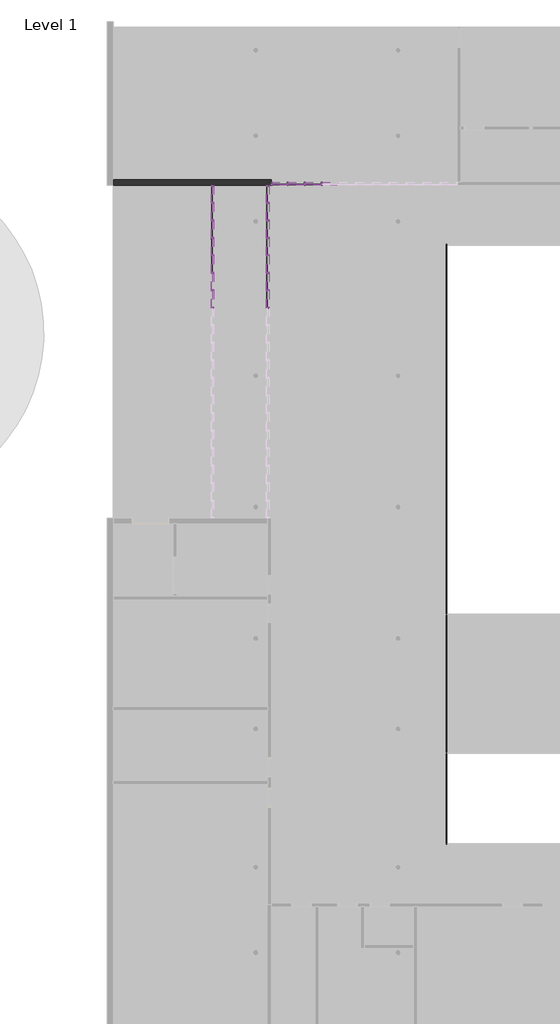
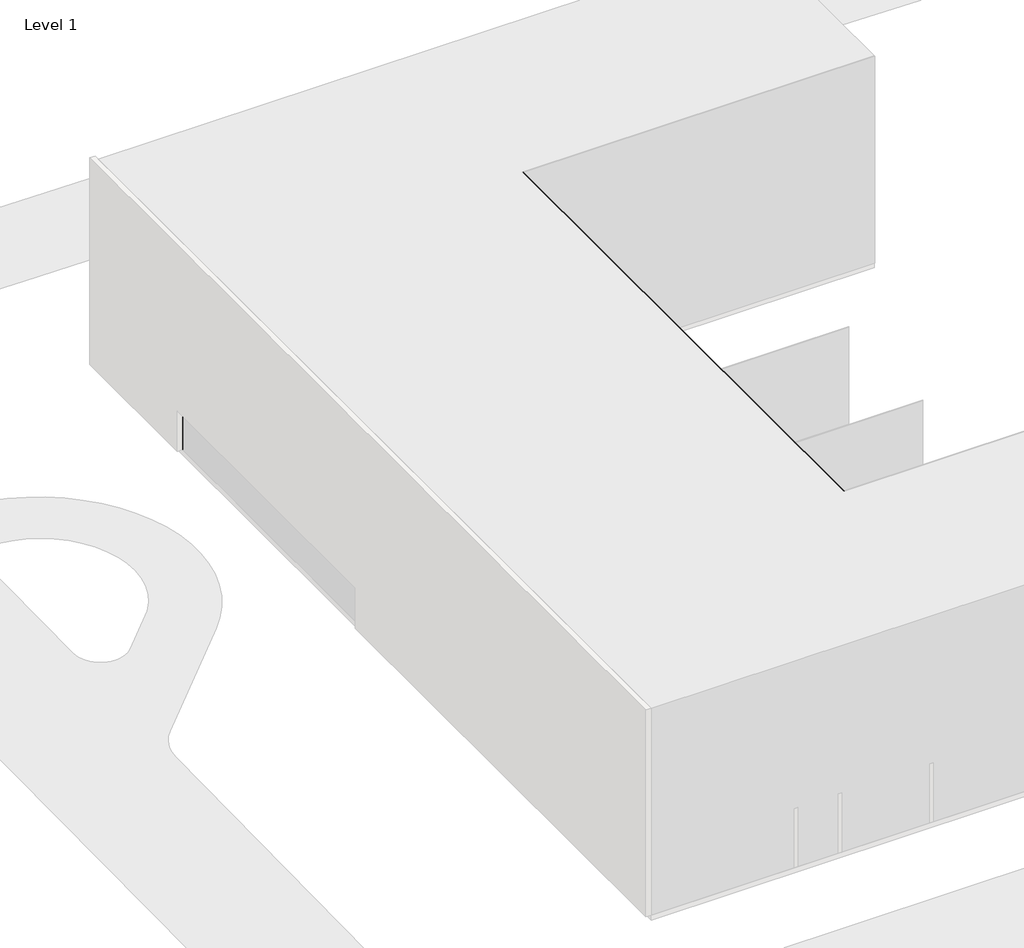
# One storey, part 3 of 5: 91 members, 27 plates, 3 doors, 1 wall.
"""IFC4 building model written with IfcOpenShell, lengths in millimetres."""

from ifc_helpers import new_model, si_unit, origin, place, context, project, spatial, faceted_brep, transform, mapped, element, save
from components import m_door_curtain_wall_double_storefront_m_door_curtain_wall_2970ffc3, rectangular_mullion_50mm_x_150mm_13593f2b, rectangular_mullion_50mm_x_150mm_0e57614d, rectangular_mullion_50mm_x_150mm_d8a63713, rectangular_mullion_50mm_x_150mm_a5e1a8f4, rectangular_mullion_50mm_x_150mm_caa46ae3, rectangular_mullion_50mm_x_150mm_eff96389, rectangular_mullion_50mm_x_150mm_2f4df0fd, rectangular_mullion_50mm_x_150mm_a28728bf, rectangular_mullion_50mm_x_150mm_22af440f, rectangular_mullion_50mm_x_150mm_0f59f38f, rectangular_mullion_50mm_x_150mm_3fa3ad65, rectangular_mullion_50mm_x_150mm_d427b131, rectangular_mullion_50mm_x_150mm_a376ce0f, rectangular_mullion_50mm_x_150mm_4471a7bc, rectangular_mullion_50mm_x_150mm_1cdaa0f1, system_panel_glazed_2efde036, system_panel_glazed_dff54dbd, system_panel_glazed_4aef0c34, system_panel_glazed_3f9df8c7, system_panel_glazed_45ebec01, system_panel_glazed_aa3f7126, system_panel_glazed_37b7c907, system_panel_glazed_7c3f78ea, system_panel_glazed_1f05e993

model = new_model("IFC4")

# Units and contexts
model_context = context("Model", 3, world=origin())
ifc_project = project(units=[si_unit("LENGTHUNIT", "METRE", prefix="MILLI")], contexts=[model_context])

# Site, building, storey
site = spatial("IfcSite", under=ifc_project)
building = spatial("IfcBuilding", under=site)
storey = spatial("IfcBuildingStorey", under=building, Name="Level 1", Elevation=0.0)

# Doors
placement = place(None, origin())
m_door_curtain_wall_double_storefront_m_door_curtain_wall_shape = m_door_curtain_wall_double_storefront_m_door_curtain_wall_2970ffc3(model_context)
element("IfcDoor", 1, ObjectType="M_Door-Curtain-Wall-Double-Storefront : M_Door-Curtain-Wall-Double-Storefront", at=placement, inside=storey, context=model_context, shape_type="MappedRepresentation", body=[
    mapped(m_door_curtain_wall_double_storefront_m_door_curtain_wall_shape, transform((-1903.8386635, 16994.8957697, 0.0), x_axis=(0.0, -1.0, 0.0), y_axis=(1.0, 0.0, 0.0), z_axis=(0.0, 0.0, 1.0))),
])
element("IfcDoor", 2, ObjectType="M_Door-Curtain-Wall-Double-Storefront : M_Door-Curtain-Wall-Double-Storefront", at=placement, inside=storey, context=model_context, shape_type="MappedRepresentation", body=[
    mapped(m_door_curtain_wall_double_storefront_m_door_curtain_wall_shape, transform((-1903.8386635, 18836.7905065, 0.0), x_axis=(0.0, -1.0, 0.0), y_axis=(1.0, 0.0, 0.0), z_axis=(0.0, 0.0, 1.0))),
])
element("IfcDoor", 3, ObjectType="M_Door-Curtain-Wall-Double-Storefront : M_Door-Curtain-Wall-Double-Storefront", at=placement, inside=storey, context=model_context, shape_type="MappedRepresentation", body=[
    mapped(m_door_curtain_wall_double_storefront_m_door_curtain_wall_shape, transform((-4803.8386635, 18836.7905065, 0.0), x_axis=(0.0, -1.0, 0.0), y_axis=(1.0, 0.0, 0.0), z_axis=(0.0, 0.0, 1.0))),
])

# Members
rectangular_mullion_50mm_x_150mm_shape = rectangular_mullion_50mm_x_150mm_13593f2b(model_context)
element("IfcMember", 4, ObjectType="Rectangular Mullion : 50mm x 150mm", at=placement, inside=storey, context=model_context, shape_type="MappedRepresentation", body=[
    mapped(rectangular_mullion_50mm_x_150mm_shape, transform((-865.0805055, 22595.5799804, 0.0), x_axis=(0.0, 0.0, -1.0), y_axis=(0.0, 1.0, 0.0), z_axis=(1.0, 0.0, 0.0))),
])
element("IfcMember", 5, ObjectType="Rectangular Mullion : 50mm x 150mm", at=placement, inside=storey, context=model_context, shape_type="MappedRepresentation", body=[
    mapped(rectangular_mullion_50mm_x_150mm_shape, transform((-1678.8386635, 22595.5799804, 3550.0), x_axis=(0.0, 0.0, 1.0), y_axis=(0.0, 1.0, 0.0), z_axis=(-1.0, 0.0, 0.0))),
])
rectangular_mullion_50mm_x_150mm_2_shape = rectangular_mullion_50mm_x_150mm_0e57614d(model_context)
element("IfcMember", 6, ObjectType="Rectangular Mullion : 50mm x 150mm", at=placement, inside=storey, context=model_context, shape_type="MappedRepresentation", body=[
    mapped(rectangular_mullion_50mm_x_150mm_2_shape, transform((962.43581, 22595.5799804, 3550.0), x_axis=(0.0, 0.0, 1.0), y_axis=(0.0, 1.0, 0.0), z_axis=(-1.0, 0.0, 0.0))),
])
element("IfcMember", 7, ObjectType="Rectangular Mullion : 50mm x 150mm", at=placement, inside=storey, context=model_context, shape_type="MappedRepresentation", body=[
    mapped(rectangular_mullion_50mm_x_150mm_2_shape, transform((73.6776523, 22595.5799804, 3550.0), x_axis=(0.0, 0.0, 1.0), y_axis=(0.0, 1.0, 0.0), z_axis=(-1.0, 0.0, 0.0))),
])
element("IfcMember", 8, ObjectType="Rectangular Mullion : 50mm x 150mm", at=placement, inside=storey, context=model_context, shape_type="MappedRepresentation", body=[
    mapped(rectangular_mullion_50mm_x_150mm_2_shape, transform((-815.0805055, 22595.5799804, 3550.0), x_axis=(0.0, 0.0, 1.0), y_axis=(0.0, 1.0, 0.0), z_axis=(-1.0, 0.0, 0.0))),
])
element("IfcMember", 9, ObjectType="Rectangular Mullion : 50mm x 150mm", at=placement, inside=storey, context=model_context, shape_type="MappedRepresentation", body=[
    mapped(rectangular_mullion_50mm_x_150mm_2_shape, transform((912.43581, 22595.5799804, 0.0), x_axis=(0.0, 0.0, -1.0), y_axis=(0.0, 1.0, 0.0), z_axis=(1.0, 0.0, 0.0))),
])
element("IfcMember", 10, ObjectType="Rectangular Mullion : 50mm x 150mm", at=placement, inside=storey, context=model_context, shape_type="MappedRepresentation", body=[
    mapped(rectangular_mullion_50mm_x_150mm_2_shape, transform((23.6776523, 22595.5799804, 0.0), x_axis=(0.0, 0.0, -1.0), y_axis=(0.0, 1.0, 0.0), z_axis=(1.0, 0.0, 0.0))),
])
rectangular_mullion_50mm_x_150mm_3_shape = rectangular_mullion_50mm_x_150mm_d8a63713(model_context)
element("IfcMember", 11, ObjectType="Rectangular Mullion : 50mm x 150mm", at=placement, inside=storey, context=model_context, shape_type="MappedRepresentation", body=[
    mapped(rectangular_mullion_50mm_x_150mm_3_shape, transform((937.43581, 22595.5799804, 0.0), x_axis=(-1.0, 0.0, 0.0), y_axis=(0.0, 1.0, 0.0), z_axis=(0.0, 0.0, -1.0))),
])
element("IfcMember", 12, ObjectType="Rectangular Mullion : 50mm x 150mm", at=placement, inside=storey, context=model_context, shape_type="MappedRepresentation", body=[
    mapped(rectangular_mullion_50mm_x_150mm_3_shape, transform((48.6776523, 22595.5799804, 0.0), x_axis=(-1.0, 0.0, 0.0), y_axis=(0.0, 1.0, 0.0), z_axis=(0.0, 0.0, -1.0))),
])
element("IfcMember", 13, ObjectType="Rectangular Mullion : 50mm x 150mm", at=placement, inside=storey, context=model_context, shape_type="MappedRepresentation", body=[
    mapped(rectangular_mullion_50mm_x_150mm_3_shape, transform((-840.0805055, 22595.5799804, 0.0), x_axis=(-1.0, 0.0, 0.0), y_axis=(0.0, 1.0, 0.0), z_axis=(0.0, 0.0, -1.0))),
])
rectangular_mullion_50mm_x_150mm_4_shape = rectangular_mullion_50mm_x_150mm_a5e1a8f4(model_context)
element("IfcMember", 14, ObjectType="Rectangular Mullion : 50mm x 150mm", at=placement, inside=storey, context=model_context, shape_type="MappedRepresentation", body=[
    mapped(rectangular_mullion_50mm_x_150mm_4_shape, transform((-1678.8386635, 22595.5799804, 2235.0), x_axis=(0.0, 0.0, 1.0), y_axis=(0.0, 1.0, 0.0), z_axis=(-1.0, 0.0, 0.0))),
])
element("IfcMember", 15, ObjectType="Rectangular Mullion : 50mm x 150mm", at=placement, inside=storey, context=model_context, shape_type="MappedRepresentation", body=[
    mapped(rectangular_mullion_50mm_x_150mm_4_shape, transform((-1678.8386635, 22595.5799804, 2135.0), x_axis=(0.0, 0.0, 1.0), y_axis=(0.0, 1.0, 0.0), z_axis=(-1.0, 0.0, 0.0))),
])
rectangular_mullion_50mm_x_150mm_5_shape = rectangular_mullion_50mm_x_150mm_caa46ae3(model_context)
element("IfcMember", 16, ObjectType="Rectangular Mullion : 50mm x 150mm", at=placement, inside=storey, context=model_context, shape_type="MappedRepresentation", body=[
    mapped(rectangular_mullion_50mm_x_150mm_5_shape, transform((962.43581, 22595.5799804, 2235.0), x_axis=(0.0, 0.0, 1.0), y_axis=(0.0, 1.0, 0.0), z_axis=(-1.0, 0.0, 0.0))),
])
element("IfcMember", 17, ObjectType="Rectangular Mullion : 50mm x 150mm", at=placement, inside=storey, context=model_context, shape_type="MappedRepresentation", body=[
    mapped(rectangular_mullion_50mm_x_150mm_5_shape, transform((73.6776523, 22595.5799804, 2235.0), x_axis=(0.0, 0.0, 1.0), y_axis=(0.0, 1.0, 0.0), z_axis=(-1.0, 0.0, 0.0))),
])
element("IfcMember", 18, ObjectType="Rectangular Mullion : 50mm x 150mm", at=placement, inside=storey, context=model_context, shape_type="MappedRepresentation", body=[
    mapped(rectangular_mullion_50mm_x_150mm_5_shape, transform((-815.0805055, 22595.5799804, 2235.0), x_axis=(0.0, 0.0, 1.0), y_axis=(0.0, 1.0, 0.0), z_axis=(-1.0, 0.0, 0.0))),
])
element("IfcMember", 19, ObjectType="Rectangular Mullion : 50mm x 150mm", at=placement, inside=storey, context=model_context, shape_type="MappedRepresentation", body=[
    mapped(rectangular_mullion_50mm_x_150mm_5_shape, transform((962.43581, 22595.5799804, 2135.0), x_axis=(0.0, 0.0, 1.0), y_axis=(0.0, 1.0, 0.0), z_axis=(-1.0, 0.0, 0.0))),
])
element("IfcMember", 20, ObjectType="Rectangular Mullion : 50mm x 150mm", at=placement, inside=storey, context=model_context, shape_type="MappedRepresentation", body=[
    mapped(rectangular_mullion_50mm_x_150mm_5_shape, transform((73.6776523, 22595.5799804, 2135.0), x_axis=(0.0, 0.0, 1.0), y_axis=(0.0, 1.0, 0.0), z_axis=(-1.0, 0.0, 0.0))),
])
element("IfcMember", 21, ObjectType="Rectangular Mullion : 50mm x 150mm", at=placement, inside=storey, context=model_context, shape_type="MappedRepresentation", body=[
    mapped(rectangular_mullion_50mm_x_150mm_5_shape, transform((-815.0805055, 22595.5799804, 2135.0), x_axis=(0.0, 0.0, 1.0), y_axis=(0.0, 1.0, 0.0), z_axis=(-1.0, 0.0, 0.0))),
])
rectangular_mullion_50mm_x_150mm_6_shape = rectangular_mullion_50mm_x_150mm_eff96389(model_context)
element("IfcMember", 22, ObjectType="Rectangular Mullion : 50mm x 150mm", at=placement, inside=storey, context=model_context, shape_type="MappedRepresentation", body=[
    mapped(rectangular_mullion_50mm_x_150mm_6_shape, transform((937.43581, 22595.5799804, 2235.0), x_axis=(-1.0, 0.0, 0.0), y_axis=(0.0, 1.0, 0.0), z_axis=(0.0, 0.0, -1.0))),
])
element("IfcMember", 23, ObjectType="Rectangular Mullion : 50mm x 150mm", at=placement, inside=storey, context=model_context, shape_type="MappedRepresentation", body=[
    mapped(rectangular_mullion_50mm_x_150mm_6_shape, transform((48.6776523, 22595.5799804, 2235.0), x_axis=(-1.0, 0.0, 0.0), y_axis=(0.0, 1.0, 0.0), z_axis=(0.0, 0.0, -1.0))),
])
element("IfcMember", 24, ObjectType="Rectangular Mullion : 50mm x 150mm", at=placement, inside=storey, context=model_context, shape_type="MappedRepresentation", body=[
    mapped(rectangular_mullion_50mm_x_150mm_6_shape, transform((-840.0805055, 22595.5799804, 2235.0), x_axis=(-1.0, 0.0, 0.0), y_axis=(0.0, 1.0, 0.0), z_axis=(0.0, 0.0, -1.0))),
])
rectangular_mullion_50mm_x_150mm_7_shape = rectangular_mullion_50mm_x_150mm_2f4df0fd(model_context)
element("IfcMember", 25, ObjectType="Rectangular Mullion : 50mm x 150mm", at=placement, inside=storey, context=model_context, shape_type="MappedRepresentation", body=[
    mapped(rectangular_mullion_50mm_x_150mm_7_shape, transform((-1728.8386635, 22595.5799804, 2235.0), x_axis=(-1.0, 0.0, 0.0), y_axis=(0.0, 1.0, 0.0), z_axis=(0.0, 0.0, -1.0))),
])
rectangular_mullion_50mm_x_150mm_8_shape = rectangular_mullion_50mm_x_150mm_a28728bf(model_context)
element("IfcMember", 26, ObjectType="Rectangular Mullion : 50mm x 150mm", at=placement, inside=storey, context=model_context, shape_type="MappedRepresentation", body=[
    mapped(rectangular_mullion_50mm_x_150mm_8_shape, transform((937.43581, 22595.5799804, 2135.0), x_axis=(-1.0, 0.0, 0.0), y_axis=(0.0, 1.0, 0.0), z_axis=(0.0, 0.0, -1.0))),
])
element("IfcMember", 27, ObjectType="Rectangular Mullion : 50mm x 150mm", at=placement, inside=storey, context=model_context, shape_type="MappedRepresentation", body=[
    mapped(rectangular_mullion_50mm_x_150mm_8_shape, transform((48.6776523, 22595.5799804, 2135.0), x_axis=(-1.0, 0.0, 0.0), y_axis=(0.0, 1.0, 0.0), z_axis=(0.0, 0.0, -1.0))),
])
element("IfcMember", 28, ObjectType="Rectangular Mullion : 50mm x 150mm", at=placement, inside=storey, context=model_context, shape_type="MappedRepresentation", body=[
    mapped(rectangular_mullion_50mm_x_150mm_8_shape, transform((-840.0805055, 22595.5799804, 2135.0), x_axis=(-1.0, 0.0, 0.0), y_axis=(0.0, 1.0, 0.0), z_axis=(0.0, 0.0, -1.0))),
])
rectangular_mullion_50mm_x_150mm_9_shape = rectangular_mullion_50mm_x_150mm_22af440f(model_context)
element("IfcMember", 29, ObjectType="Rectangular Mullion : 50mm x 150mm", at=placement, inside=storey, context=model_context, shape_type="MappedRepresentation", body=[
    mapped(rectangular_mullion_50mm_x_150mm_9_shape, transform((-1728.8386635, 22595.5799804, 0.0), x_axis=(-1.0, 0.0, 0.0), y_axis=(0.0, 1.0, 0.0), z_axis=(0.0, 0.0, -1.0))),
])
rectangular_mullion_50mm_x_150mm_10_shape = rectangular_mullion_50mm_x_150mm_0f59f38f(model_context)
element("IfcMember", 30, ObjectType="Rectangular Mullion : 50mm x 150mm", at=placement, inside=storey, context=model_context, shape_type="MappedRepresentation", body=[
    mapped(rectangular_mullion_50mm_x_150mm_10_shape, transform((-1728.8386635, 22595.5799804, 2135.0), x_axis=(-1.0, 0.0, 0.0), y_axis=(0.0, 1.0, 0.0), z_axis=(0.0, 0.0, -1.0))),
])
rectangular_mullion_50mm_x_150mm_11_shape = rectangular_mullion_50mm_x_150mm_3fa3ad65(model_context)
element("IfcMember", 31, ObjectType="Rectangular Mullion : 50mm x 150mm", at=placement, inside=storey, context=model_context, shape_type="MappedRepresentation", body=[
    mapped(rectangular_mullion_50mm_x_150mm_11_shape, transform((-1903.8386635, 21624.6326117, 3550.0), x_axis=(0.0, 0.0, 1.0), y_axis=(-1.0, 0.0, 0.0), z_axis=(0.0, -1.0, 0.0))),
])
element("IfcMember", 32, ObjectType="Rectangular Mullion : 50mm x 150mm", at=placement, inside=storey, context=model_context, shape_type="MappedRepresentation", body=[
    mapped(rectangular_mullion_50mm_x_150mm_11_shape, transform((-4803.8386635, 21624.6326117, 3550.0), x_axis=(0.0, 0.0, 1.0), y_axis=(-1.0, 0.0, 0.0), z_axis=(0.0, -1.0, 0.0))),
])
rectangular_mullion_50mm_x_150mm_12_shape = rectangular_mullion_50mm_x_150mm_d427b131(model_context)
element("IfcMember", 33, ObjectType="Rectangular Mullion : 50mm x 150mm", at=placement, inside=storey, context=model_context, shape_type="MappedRepresentation", body=[
    mapped(rectangular_mullion_50mm_x_150mm_12_shape, transform((-1903.8386635, 16098.9484014, 3550.0), x_axis=(0.0, 0.0, 1.0), y_axis=(-1.0, 0.0, 0.0), z_axis=(0.0, -1.0, 0.0))),
])
element("IfcMember", 34, ObjectType="Rectangular Mullion : 50mm x 150mm", at=placement, inside=storey, context=model_context, shape_type="MappedRepresentation", body=[
    mapped(rectangular_mullion_50mm_x_150mm_12_shape, transform((-1903.8386635, 17019.8957697, 3550.0), x_axis=(0.0, 0.0, 1.0), y_axis=(-1.0, 0.0, 0.0), z_axis=(0.0, -1.0, 0.0))),
])
element("IfcMember", 35, ObjectType="Rectangular Mullion : 50mm x 150mm", at=placement, inside=storey, context=model_context, shape_type="MappedRepresentation", body=[
    mapped(rectangular_mullion_50mm_x_150mm_12_shape, transform((-1903.8386635, 17940.8431381, 3550.0), x_axis=(0.0, 0.0, 1.0), y_axis=(-1.0, 0.0, 0.0), z_axis=(0.0, -1.0, 0.0))),
])
element("IfcMember", 36, ObjectType="Rectangular Mullion : 50mm x 150mm", at=placement, inside=storey, context=model_context, shape_type="MappedRepresentation", body=[
    mapped(rectangular_mullion_50mm_x_150mm_12_shape, transform((-1903.8386635, 18861.7905065, 3550.0), x_axis=(0.0, 0.0, 1.0), y_axis=(-1.0, 0.0, 0.0), z_axis=(0.0, -1.0, 0.0))),
])
element("IfcMember", 37, ObjectType="Rectangular Mullion : 50mm x 150mm", at=placement, inside=storey, context=model_context, shape_type="MappedRepresentation", body=[
    mapped(rectangular_mullion_50mm_x_150mm_12_shape, transform((-1903.8386635, 19782.7378749, 3550.0), x_axis=(0.0, 0.0, 1.0), y_axis=(-1.0, 0.0, 0.0), z_axis=(0.0, -1.0, 0.0))),
])
element("IfcMember", 38, ObjectType="Rectangular Mullion : 50mm x 150mm", at=placement, inside=storey, context=model_context, shape_type="MappedRepresentation", body=[
    mapped(rectangular_mullion_50mm_x_150mm_12_shape, transform((-1903.8386635, 20703.6852433, 3550.0), x_axis=(0.0, 0.0, 1.0), y_axis=(-1.0, 0.0, 0.0), z_axis=(0.0, -1.0, 0.0))),
])
element("IfcMember", 39, ObjectType="Rectangular Mullion : 50mm x 150mm", at=placement, inside=storey, context=model_context, shape_type="MappedRepresentation", body=[
    mapped(rectangular_mullion_50mm_x_150mm_12_shape, transform((-4803.8386635, 16098.9484014, 3550.0), x_axis=(0.0, 0.0, 1.0), y_axis=(-1.0, 0.0, 0.0), z_axis=(0.0, -1.0, 0.0))),
])
element("IfcMember", 40, ObjectType="Rectangular Mullion : 50mm x 150mm", at=placement, inside=storey, context=model_context, shape_type="MappedRepresentation", body=[
    mapped(rectangular_mullion_50mm_x_150mm_12_shape, transform((-4803.8386635, 17019.8957697, 3550.0), x_axis=(0.0, 0.0, 1.0), y_axis=(-1.0, 0.0, 0.0), z_axis=(0.0, -1.0, 0.0))),
])
element("IfcMember", 41, ObjectType="Rectangular Mullion : 50mm x 150mm", at=placement, inside=storey, context=model_context, shape_type="MappedRepresentation", body=[
    mapped(rectangular_mullion_50mm_x_150mm_12_shape, transform((-4803.8386635, 17940.8431381, 3550.0), x_axis=(0.0, 0.0, 1.0), y_axis=(-1.0, 0.0, 0.0), z_axis=(0.0, -1.0, 0.0))),
])
element("IfcMember", 42, ObjectType="Rectangular Mullion : 50mm x 150mm", at=placement, inside=storey, context=model_context, shape_type="MappedRepresentation", body=[
    mapped(rectangular_mullion_50mm_x_150mm_12_shape, transform((-4803.8386635, 18861.7905065, 3550.0), x_axis=(0.0, 0.0, 1.0), y_axis=(-1.0, 0.0, 0.0), z_axis=(0.0, -1.0, 0.0))),
])
element("IfcMember", 43, ObjectType="Rectangular Mullion : 50mm x 150mm", at=placement, inside=storey, context=model_context, shape_type="MappedRepresentation", body=[
    mapped(rectangular_mullion_50mm_x_150mm_12_shape, transform((-4803.8386635, 19782.7378749, 3550.0), x_axis=(0.0, 0.0, 1.0), y_axis=(-1.0, 0.0, 0.0), z_axis=(0.0, -1.0, 0.0))),
])
element("IfcMember", 44, ObjectType="Rectangular Mullion : 50mm x 150mm", at=placement, inside=storey, context=model_context, shape_type="MappedRepresentation", body=[
    mapped(rectangular_mullion_50mm_x_150mm_12_shape, transform((-4803.8386635, 20703.6852433, 3550.0), x_axis=(0.0, 0.0, 1.0), y_axis=(-1.0, 0.0, 0.0), z_axis=(0.0, -1.0, 0.0))),
])
element("IfcMember", 45, ObjectType="Rectangular Mullion : 50mm x 150mm", at=placement, inside=storey, context=model_context, shape_type="MappedRepresentation", body=[
    mapped(rectangular_mullion_50mm_x_150mm_12_shape, transform((-1903.8386635, 21574.6326117, 0.0), x_axis=(0.0, 0.0, -1.0), y_axis=(-1.0, 0.0, 0.0), z_axis=(0.0, 1.0, 0.0))),
])
element("IfcMember", 46, ObjectType="Rectangular Mullion : 50mm x 150mm", at=placement, inside=storey, context=model_context, shape_type="MappedRepresentation", body=[
    mapped(rectangular_mullion_50mm_x_150mm_12_shape, transform((-1903.8386635, 20653.6852433, 0.0), x_axis=(0.0, 0.0, -1.0), y_axis=(-1.0, 0.0, 0.0), z_axis=(0.0, 1.0, 0.0))),
])
element("IfcMember", 47, ObjectType="Rectangular Mullion : 50mm x 150mm", at=placement, inside=storey, context=model_context, shape_type="MappedRepresentation", body=[
    mapped(rectangular_mullion_50mm_x_150mm_12_shape, transform((-1903.8386635, 16048.9484014, 0.0), x_axis=(0.0, 0.0, -1.0), y_axis=(-1.0, 0.0, 0.0), z_axis=(0.0, 1.0, 0.0))),
])
element("IfcMember", 48, ObjectType="Rectangular Mullion : 50mm x 150mm", at=placement, inside=storey, context=model_context, shape_type="MappedRepresentation", body=[
    mapped(rectangular_mullion_50mm_x_150mm_12_shape, transform((-4803.8386635, 21574.6326117, 0.0), x_axis=(0.0, 0.0, -1.0), y_axis=(-1.0, 0.0, 0.0), z_axis=(0.0, 1.0, 0.0))),
])
element("IfcMember", 49, ObjectType="Rectangular Mullion : 50mm x 150mm", at=placement, inside=storey, context=model_context, shape_type="MappedRepresentation", body=[
    mapped(rectangular_mullion_50mm_x_150mm_12_shape, transform((-4803.8386635, 20653.6852433, 0.0), x_axis=(0.0, 0.0, -1.0), y_axis=(-1.0, 0.0, 0.0), z_axis=(0.0, 1.0, 0.0))),
])
element("IfcMember", 50, ObjectType="Rectangular Mullion : 50mm x 150mm", at=placement, inside=storey, context=model_context, shape_type="MappedRepresentation", body=[
    mapped(rectangular_mullion_50mm_x_150mm_12_shape, transform((-4803.8386635, 16048.9484014, 0.0), x_axis=(0.0, 0.0, -1.0), y_axis=(-1.0, 0.0, 0.0), z_axis=(0.0, 1.0, 0.0))),
])
element("IfcMember", 51, ObjectType="Rectangular Mullion : 50mm x 150mm", at=placement, inside=storey, context=model_context, shape_type="MappedRepresentation", body=[
    mapped(rectangular_mullion_50mm_x_150mm_11_shape, transform((-1903.8386635, 22470.5799804, 0.0), x_axis=(0.0, 0.0, -1.0), y_axis=(-1.0, 0.0, 0.0), z_axis=(0.0, 1.0, 0.0))),
])
element("IfcMember", 52, ObjectType="Rectangular Mullion : 50mm x 150mm", at=placement, inside=storey, context=model_context, shape_type="MappedRepresentation", body=[
    mapped(rectangular_mullion_50mm_x_150mm_11_shape, transform((-4803.8386635, 22470.5799804, 0.0), x_axis=(0.0, 0.0, -1.0), y_axis=(-1.0, 0.0, 0.0), z_axis=(0.0, 1.0, 0.0))),
])
element("IfcMember", 53, ObjectType="Rectangular Mullion : 50mm x 150mm", at=placement, inside=storey, context=model_context, shape_type="MappedRepresentation", body=[
    mapped(rectangular_mullion_50mm_x_150mm_3_shape, transform((-1903.8386635, 16073.9484014, 0.0), x_axis=(0.0, -1.0, 0.0), y_axis=(-1.0, 0.0, 0.0), z_axis=(0.0, 0.0, -1.0))),
])
element("IfcMember", 54, ObjectType="Rectangular Mullion : 50mm x 150mm", at=placement, inside=storey, context=model_context, shape_type="MappedRepresentation", body=[
    mapped(rectangular_mullion_50mm_x_150mm_3_shape, transform((-1903.8386635, 19757.7378749, 0.0), x_axis=(0.0, -1.0, 0.0), y_axis=(-1.0, 0.0, 0.0), z_axis=(0.0, 0.0, -1.0))),
])
element("IfcMember", 55, ObjectType="Rectangular Mullion : 50mm x 150mm", at=placement, inside=storey, context=model_context, shape_type="MappedRepresentation", body=[
    mapped(rectangular_mullion_50mm_x_150mm_3_shape, transform((-1903.8386635, 20678.6852433, 0.0), x_axis=(0.0, -1.0, 0.0), y_axis=(-1.0, 0.0, 0.0), z_axis=(0.0, 0.0, -1.0))),
])
element("IfcMember", 56, ObjectType="Rectangular Mullion : 50mm x 150mm", at=placement, inside=storey, context=model_context, shape_type="MappedRepresentation", body=[
    mapped(rectangular_mullion_50mm_x_150mm_3_shape, transform((-1903.8386635, 21599.6326117, 0.0), x_axis=(0.0, -1.0, 0.0), y_axis=(-1.0, 0.0, 0.0), z_axis=(0.0, 0.0, -1.0))),
])
element("IfcMember", 57, ObjectType="Rectangular Mullion : 50mm x 150mm", at=placement, inside=storey, context=model_context, shape_type="MappedRepresentation", body=[
    mapped(rectangular_mullion_50mm_x_150mm_3_shape, transform((-4803.8386635, 16073.9484014, 0.0), x_axis=(0.0, -1.0, 0.0), y_axis=(-1.0, 0.0, 0.0), z_axis=(0.0, 0.0, -1.0))),
])
element("IfcMember", 58, ObjectType="Rectangular Mullion : 50mm x 150mm", at=placement, inside=storey, context=model_context, shape_type="MappedRepresentation", body=[
    mapped(rectangular_mullion_50mm_x_150mm_3_shape, transform((-4803.8386635, 19757.7378749, 0.0), x_axis=(0.0, -1.0, 0.0), y_axis=(-1.0, 0.0, 0.0), z_axis=(0.0, 0.0, -1.0))),
])
element("IfcMember", 59, ObjectType="Rectangular Mullion : 50mm x 150mm", at=placement, inside=storey, context=model_context, shape_type="MappedRepresentation", body=[
    mapped(rectangular_mullion_50mm_x_150mm_3_shape, transform((-4803.8386635, 20678.6852433, 0.0), x_axis=(0.0, -1.0, 0.0), y_axis=(-1.0, 0.0, 0.0), z_axis=(0.0, 0.0, -1.0))),
])
element("IfcMember", 60, ObjectType="Rectangular Mullion : 50mm x 150mm", at=placement, inside=storey, context=model_context, shape_type="MappedRepresentation", body=[
    mapped(rectangular_mullion_50mm_x_150mm_3_shape, transform((-4803.8386635, 21599.6326117, 0.0), x_axis=(0.0, -1.0, 0.0), y_axis=(-1.0, 0.0, 0.0), z_axis=(0.0, 0.0, -1.0))),
])
element("IfcMember", 61, ObjectType="Rectangular Mullion : 50mm x 150mm", at=placement, inside=storey, context=model_context, shape_type="MappedRepresentation", body=[
    mapped(rectangular_mullion_50mm_x_150mm_8_shape, transform((-1903.8386635, 16073.9484014, 2135.0), x_axis=(0.0, -1.0, 0.0), y_axis=(-1.0, 0.0, 0.0), z_axis=(0.0, 0.0, -1.0))),
])
element("IfcMember", 62, ObjectType="Rectangular Mullion : 50mm x 150mm", at=placement, inside=storey, context=model_context, shape_type="MappedRepresentation", body=[
    mapped(rectangular_mullion_50mm_x_150mm_8_shape, transform((-1903.8386635, 17915.8431381, 2135.0), x_axis=(0.0, -1.0, 0.0), y_axis=(-1.0, 0.0, 0.0), z_axis=(0.0, 0.0, -1.0))),
])
element("IfcMember", 63, ObjectType="Rectangular Mullion : 50mm x 150mm", at=placement, inside=storey, context=model_context, shape_type="MappedRepresentation", body=[
    mapped(rectangular_mullion_50mm_x_150mm_8_shape, transform((-1903.8386635, 19757.7378749, 2135.0), x_axis=(0.0, -1.0, 0.0), y_axis=(-1.0, 0.0, 0.0), z_axis=(0.0, 0.0, -1.0))),
])
element("IfcMember", 64, ObjectType="Rectangular Mullion : 50mm x 150mm", at=placement, inside=storey, context=model_context, shape_type="MappedRepresentation", body=[
    mapped(rectangular_mullion_50mm_x_150mm_8_shape, transform((-1903.8386635, 20678.6852433, 2135.0), x_axis=(0.0, -1.0, 0.0), y_axis=(-1.0, 0.0, 0.0), z_axis=(0.0, 0.0, -1.0))),
])
element("IfcMember", 65, ObjectType="Rectangular Mullion : 50mm x 150mm", at=placement, inside=storey, context=model_context, shape_type="MappedRepresentation", body=[
    mapped(rectangular_mullion_50mm_x_150mm_8_shape, transform((-1903.8386635, 21599.6326117, 2135.0), x_axis=(0.0, -1.0, 0.0), y_axis=(-1.0, 0.0, 0.0), z_axis=(0.0, 0.0, -1.0))),
])
element("IfcMember", 66, ObjectType="Rectangular Mullion : 50mm x 150mm", at=placement, inside=storey, context=model_context, shape_type="MappedRepresentation", body=[
    mapped(rectangular_mullion_50mm_x_150mm_8_shape, transform((-4803.8386635, 16073.9484014, 2135.0), x_axis=(0.0, -1.0, 0.0), y_axis=(-1.0, 0.0, 0.0), z_axis=(0.0, 0.0, -1.0))),
])
element("IfcMember", 67, ObjectType="Rectangular Mullion : 50mm x 150mm", at=placement, inside=storey, context=model_context, shape_type="MappedRepresentation", body=[
    mapped(rectangular_mullion_50mm_x_150mm_8_shape, transform((-4803.8386635, 17915.8431381, 2135.0), x_axis=(0.0, -1.0, 0.0), y_axis=(-1.0, 0.0, 0.0), z_axis=(0.0, 0.0, -1.0))),
])
element("IfcMember", 68, ObjectType="Rectangular Mullion : 50mm x 150mm", at=placement, inside=storey, context=model_context, shape_type="MappedRepresentation", body=[
    mapped(rectangular_mullion_50mm_x_150mm_8_shape, transform((-4803.8386635, 19757.7378749, 2135.0), x_axis=(0.0, -1.0, 0.0), y_axis=(-1.0, 0.0, 0.0), z_axis=(0.0, 0.0, -1.0))),
])
element("IfcMember", 69, ObjectType="Rectangular Mullion : 50mm x 150mm", at=placement, inside=storey, context=model_context, shape_type="MappedRepresentation", body=[
    mapped(rectangular_mullion_50mm_x_150mm_8_shape, transform((-4803.8386635, 20678.6852433, 2135.0), x_axis=(0.0, -1.0, 0.0), y_axis=(-1.0, 0.0, 0.0), z_axis=(0.0, 0.0, -1.0))),
])
element("IfcMember", 70, ObjectType="Rectangular Mullion : 50mm x 150mm", at=placement, inside=storey, context=model_context, shape_type="MappedRepresentation", body=[
    mapped(rectangular_mullion_50mm_x_150mm_8_shape, transform((-4803.8386635, 21599.6326117, 2135.0), x_axis=(0.0, -1.0, 0.0), y_axis=(-1.0, 0.0, 0.0), z_axis=(0.0, 0.0, -1.0))),
])
rectangular_mullion_50mm_x_150mm_13_shape = rectangular_mullion_50mm_x_150mm_a376ce0f(model_context)
element("IfcMember", 71, ObjectType="Rectangular Mullion : 50mm x 150mm", at=placement, inside=storey, context=model_context, shape_type="MappedRepresentation", body=[
    mapped(rectangular_mullion_50mm_x_150mm_13_shape, transform((-1903.8386635, 21624.6326117, 2135.0), x_axis=(0.0, 0.0, 1.0), y_axis=(-1.0, 0.0, 0.0), z_axis=(0.0, -1.0, 0.0))),
])
element("IfcMember", 72, ObjectType="Rectangular Mullion : 50mm x 150mm", at=placement, inside=storey, context=model_context, shape_type="MappedRepresentation", body=[
    mapped(rectangular_mullion_50mm_x_150mm_13_shape, transform((-4803.8386635, 21624.6326117, 2135.0), x_axis=(0.0, 0.0, 1.0), y_axis=(-1.0, 0.0, 0.0), z_axis=(0.0, -1.0, 0.0))),
])
rectangular_mullion_50mm_x_150mm_14_shape = rectangular_mullion_50mm_x_150mm_4471a7bc(model_context)
element("IfcMember", 73, ObjectType="Rectangular Mullion : 50mm x 150mm", at=placement, inside=storey, context=model_context, shape_type="MappedRepresentation", body=[
    mapped(rectangular_mullion_50mm_x_150mm_14_shape, transform((-1903.8386635, 20703.6852433, 2135.0), x_axis=(0.0, 0.0, 1.0), y_axis=(-1.0, 0.0, 0.0), z_axis=(0.0, -1.0, 0.0))),
])
element("IfcMember", 74, ObjectType="Rectangular Mullion : 50mm x 150mm", at=placement, inside=storey, context=model_context, shape_type="MappedRepresentation", body=[
    mapped(rectangular_mullion_50mm_x_150mm_14_shape, transform((-1903.8386635, 19782.7378749, 2135.0), x_axis=(0.0, 0.0, 1.0), y_axis=(-1.0, 0.0, 0.0), z_axis=(0.0, -1.0, 0.0))),
])
element("IfcMember", 75, ObjectType="Rectangular Mullion : 50mm x 150mm", at=placement, inside=storey, context=model_context, shape_type="MappedRepresentation", body=[
    mapped(rectangular_mullion_50mm_x_150mm_14_shape, transform((-1903.8386635, 18861.7905065, 2135.0), x_axis=(0.0, 0.0, 1.0), y_axis=(-1.0, 0.0, 0.0), z_axis=(0.0, -1.0, 0.0))),
])
element("IfcMember", 76, ObjectType="Rectangular Mullion : 50mm x 150mm", at=placement, inside=storey, context=model_context, shape_type="MappedRepresentation", body=[
    mapped(rectangular_mullion_50mm_x_150mm_14_shape, transform((-1903.8386635, 17940.8431381, 2135.0), x_axis=(0.0, 0.0, 1.0), y_axis=(-1.0, 0.0, 0.0), z_axis=(0.0, -1.0, 0.0))),
])
element("IfcMember", 77, ObjectType="Rectangular Mullion : 50mm x 150mm", at=placement, inside=storey, context=model_context, shape_type="MappedRepresentation", body=[
    mapped(rectangular_mullion_50mm_x_150mm_14_shape, transform((-1903.8386635, 17019.8957697, 2135.0), x_axis=(0.0, 0.0, 1.0), y_axis=(-1.0, 0.0, 0.0), z_axis=(0.0, -1.0, 0.0))),
])
element("IfcMember", 78, ObjectType="Rectangular Mullion : 50mm x 150mm", at=placement, inside=storey, context=model_context, shape_type="MappedRepresentation", body=[
    mapped(rectangular_mullion_50mm_x_150mm_14_shape, transform((-1903.8386635, 16098.9484014, 2135.0), x_axis=(0.0, 0.0, 1.0), y_axis=(-1.0, 0.0, 0.0), z_axis=(0.0, -1.0, 0.0))),
])
element("IfcMember", 79, ObjectType="Rectangular Mullion : 50mm x 150mm", at=placement, inside=storey, context=model_context, shape_type="MappedRepresentation", body=[
    mapped(rectangular_mullion_50mm_x_150mm_14_shape, transform((-4803.8386635, 20703.6852433, 2135.0), x_axis=(0.0, 0.0, 1.0), y_axis=(-1.0, 0.0, 0.0), z_axis=(0.0, -1.0, 0.0))),
])
element("IfcMember", 80, ObjectType="Rectangular Mullion : 50mm x 150mm", at=placement, inside=storey, context=model_context, shape_type="MappedRepresentation", body=[
    mapped(rectangular_mullion_50mm_x_150mm_14_shape, transform((-4803.8386635, 19782.7378749, 2135.0), x_axis=(0.0, 0.0, 1.0), y_axis=(-1.0, 0.0, 0.0), z_axis=(0.0, -1.0, 0.0))),
])
element("IfcMember", 81, ObjectType="Rectangular Mullion : 50mm x 150mm", at=placement, inside=storey, context=model_context, shape_type="MappedRepresentation", body=[
    mapped(rectangular_mullion_50mm_x_150mm_14_shape, transform((-4803.8386635, 18861.7905065, 2135.0), x_axis=(0.0, 0.0, 1.0), y_axis=(-1.0, 0.0, 0.0), z_axis=(0.0, -1.0, 0.0))),
])
element("IfcMember", 82, ObjectType="Rectangular Mullion : 50mm x 150mm", at=placement, inside=storey, context=model_context, shape_type="MappedRepresentation", body=[
    mapped(rectangular_mullion_50mm_x_150mm_14_shape, transform((-4803.8386635, 17940.8431381, 2135.0), x_axis=(0.0, 0.0, 1.0), y_axis=(-1.0, 0.0, 0.0), z_axis=(0.0, -1.0, 0.0))),
])
element("IfcMember", 83, ObjectType="Rectangular Mullion : 50mm x 150mm", at=placement, inside=storey, context=model_context, shape_type="MappedRepresentation", body=[
    mapped(rectangular_mullion_50mm_x_150mm_14_shape, transform((-4803.8386635, 17019.8957697, 2135.0), x_axis=(0.0, 0.0, 1.0), y_axis=(-1.0, 0.0, 0.0), z_axis=(0.0, -1.0, 0.0))),
])
element("IfcMember", 84, ObjectType="Rectangular Mullion : 50mm x 150mm", at=placement, inside=storey, context=model_context, shape_type="MappedRepresentation", body=[
    mapped(rectangular_mullion_50mm_x_150mm_14_shape, transform((-4803.8386635, 16098.9484014, 2135.0), x_axis=(0.0, 0.0, 1.0), y_axis=(-1.0, 0.0, 0.0), z_axis=(0.0, -1.0, 0.0))),
])
element("IfcMember", 85, ObjectType="Rectangular Mullion : 50mm x 150mm", at=placement, inside=storey, context=model_context, shape_type="MappedRepresentation", body=[
    mapped(rectangular_mullion_50mm_x_150mm_10_shape, transform((-1903.8386635, 22520.5799804, 3550.0), x_axis=(0.0, 1.0, 0.0), y_axis=(-1.0, 0.0, 0.0), z_axis=(0.0, 0.0, 1.0))),
])
element("IfcMember", 86, ObjectType="Rectangular Mullion : 50mm x 150mm", at=placement, inside=storey, context=model_context, shape_type="MappedRepresentation", body=[
    mapped(rectangular_mullion_50mm_x_150mm_10_shape, transform((-4803.8386635, 22520.5799804, 3550.0), x_axis=(0.0, 1.0, 0.0), y_axis=(-1.0, 0.0, 0.0), z_axis=(0.0, 0.0, 1.0))),
])
element("IfcMember", 87, ObjectType="Rectangular Mullion : 50mm x 150mm", at=placement, inside=storey, context=model_context, shape_type="MappedRepresentation", body=[
    mapped(rectangular_mullion_50mm_x_150mm_9_shape, transform((-1903.8386635, 22520.5799804, 2135.0), x_axis=(0.0, 1.0, 0.0), y_axis=(-1.0, 0.0, 0.0), z_axis=(0.0, 0.0, 1.0))),
])
element("IfcMember", 88, ObjectType="Rectangular Mullion : 50mm x 150mm", at=placement, inside=storey, context=model_context, shape_type="MappedRepresentation", body=[
    mapped(rectangular_mullion_50mm_x_150mm_9_shape, transform((-4803.8386635, 22520.5799804, 2135.0), x_axis=(0.0, 1.0, 0.0), y_axis=(-1.0, 0.0, 0.0), z_axis=(0.0, 0.0, 1.0))),
])
rectangular_mullion_50mm_x_150mm_15_shape = rectangular_mullion_50mm_x_150mm_1cdaa0f1(model_context)
element("IfcMember", 89, ObjectType="Rectangular Mullion : 50mm x 150mm", at=placement, inside=storey, context=model_context, shape_type="MappedRepresentation", body=[
    mapped(rectangular_mullion_50mm_x_150mm_15_shape, transform((-1903.8386635, 16994.8957697, 2110.0), x_axis=(0.0, -1.0, 0.0), y_axis=(-1.0, 0.0, 0.0), z_axis=(0.0, 0.0, -1.0))),
])
element("IfcMember", 90, ObjectType="Rectangular Mullion : 50mm x 150mm", at=placement, inside=storey, context=model_context, shape_type="MappedRepresentation", body=[
    mapped(rectangular_mullion_50mm_x_150mm_15_shape, transform((-1903.8386635, 18836.7905065, 2110.0), x_axis=(0.0, -1.0, 0.0), y_axis=(-1.0, 0.0, 0.0), z_axis=(0.0, 0.0, -1.0))),
])
element("IfcMember", 91, ObjectType="Rectangular Mullion : 50mm x 150mm", at=placement, inside=storey, context=model_context, shape_type="MappedRepresentation", body=[
    mapped(rectangular_mullion_50mm_x_150mm_15_shape, transform((-4803.8386635, 16994.8957697, 2110.0), x_axis=(0.0, -1.0, 0.0), y_axis=(-1.0, 0.0, 0.0), z_axis=(0.0, 0.0, -1.0))),
])
element("IfcMember", 92, ObjectType="Rectangular Mullion : 50mm x 150mm", at=placement, inside=storey, context=model_context, shape_type="MappedRepresentation", body=[
    mapped(rectangular_mullion_50mm_x_150mm_15_shape, transform((-4803.8386635, 18836.7905065, 2110.0), x_axis=(0.0, -1.0, 0.0), y_axis=(-1.0, 0.0, 0.0), z_axis=(0.0, 0.0, -1.0))),
])
element("IfcMember", 93, ObjectType="Rectangular Mullion : 50mm x 150mm", at=placement, inside=storey, context=model_context, shape_type="MappedRepresentation", body=[
    mapped(rectangular_mullion_50mm_x_150mm_3_shape, transform((-1903.8386635, 17915.8431381, 0.0), x_axis=(0.0, -1.0, 0.0), y_axis=(-1.0, 0.0, 0.0), z_axis=(0.0, 0.0, -1.0))),
])
element("IfcMember", 94, ObjectType="Rectangular Mullion : 50mm x 150mm", at=placement, inside=storey, context=model_context, shape_type="MappedRepresentation", body=[
    mapped(rectangular_mullion_50mm_x_150mm_3_shape, transform((-4803.8386635, 17915.8431381, 0.0), x_axis=(0.0, -1.0, 0.0), y_axis=(-1.0, 0.0, 0.0), z_axis=(0.0, 0.0, -1.0))),
])

# Plates
system_panel_glazed_shape = system_panel_glazed_2efde036(model_context)
element("IfcPlate", 95, ObjectType="System Panel : Glazed", at=placement, inside=storey, context=model_context, shape_type="MappedRepresentation", body=[
    mapped(system_panel_glazed_shape, transform((7447.5010724, 3641.2388183, 0.0), x_axis=(0.0, 1.0, 0.0), y_axis=(-1.0, 0.0, 0.0), z_axis=(0.0, 0.0, 1.0))),
])
system_panel_glazed_2_shape = system_panel_glazed_dff54dbd(model_context)
element("IfcPlate", 96, ObjectType="System Panel : Glazed", at=placement, inside=storey, context=model_context, shape_type="MappedRepresentation", body=[
    mapped(system_panel_glazed_2_shape, transform((-1271.9595845, 22595.5799804, 50.0), x_axis=(-1.0, 0.0, 0.0), y_axis=(0.0, -1.0, 0.0), z_axis=(0.0, 0.0, 1.0))),
])
system_panel_glazed_3_shape = system_panel_glazed_4aef0c34(model_context)
element("IfcPlate", 97, ObjectType="System Panel : Glazed", at=placement, inside=storey, context=model_context, shape_type="MappedRepresentation", body=[
    mapped(system_panel_glazed_3_shape, transform((493.0567312, 22595.5799804, 50.0), x_axis=(-1.0, 0.0, 0.0), y_axis=(0.0, -1.0, 0.0), z_axis=(0.0, 0.0, 1.0))),
])
element("IfcPlate", 98, ObjectType="System Panel : Glazed", at=placement, inside=storey, context=model_context, shape_type="MappedRepresentation", body=[
    mapped(system_panel_glazed_3_shape, transform((-395.7014266, 22595.5799804, 50.0), x_axis=(-1.0, 0.0, 0.0), y_axis=(0.0, -1.0, 0.0), z_axis=(0.0, 0.0, 1.0))),
])
system_panel_glazed_4_shape = system_panel_glazed_3f9df8c7(model_context)
element("IfcPlate", 99, ObjectType="System Panel : Glazed", at=placement, inside=storey, context=model_context, shape_type="MappedRepresentation", body=[
    mapped(system_panel_glazed_4_shape, transform((-1271.9595845, 22595.5799804, 2160.0), x_axis=(-1.0, 0.0, 0.0), y_axis=(0.0, -1.0, 0.0), z_axis=(0.0, 0.0, 1.0))),
])
system_panel_glazed_5_shape = system_panel_glazed_45ebec01(model_context)
element("IfcPlate", 100, ObjectType="System Panel : Glazed", at=placement, inside=storey, context=model_context, shape_type="MappedRepresentation", body=[
    mapped(system_panel_glazed_5_shape, transform((493.0567312, 22595.5799804, 2160.0), x_axis=(-1.0, 0.0, 0.0), y_axis=(0.0, -1.0, 0.0), z_axis=(0.0, 0.0, 1.0))),
])
element("IfcPlate", 101, ObjectType="System Panel : Glazed", at=placement, inside=storey, context=model_context, shape_type="MappedRepresentation", body=[
    mapped(system_panel_glazed_5_shape, transform((-395.7014266, 22595.5799804, 2160.0), x_axis=(-1.0, 0.0, 0.0), y_axis=(0.0, -1.0, 0.0), z_axis=(0.0, 0.0, 1.0))),
])
system_panel_glazed_6_shape = system_panel_glazed_aa3f7126(model_context)
element("IfcPlate", 102, ObjectType="System Panel : Glazed", at=placement, inside=storey, context=model_context, shape_type="MappedRepresentation", body=[
    mapped(system_panel_glazed_6_shape, transform((-1903.8386635, 22047.606296, 50.0), x_axis=(0.0, -1.0, 0.0), y_axis=(1.0, 0.0, 0.0), z_axis=(0.0, 0.0, 1.0))),
])
element("IfcPlate", 103, ObjectType="System Panel : Glazed", at=placement, inside=storey, context=model_context, shape_type="MappedRepresentation", body=[
    mapped(system_panel_glazed_6_shape, transform((-4803.8386635, 22047.606296, 50.0), x_axis=(0.0, -1.0, 0.0), y_axis=(1.0, 0.0, 0.0), z_axis=(0.0, 0.0, 1.0))),
])
system_panel_glazed_7_shape = system_panel_glazed_37b7c907(model_context)
element("IfcPlate", 104, ObjectType="System Panel : Glazed", at=placement, inside=storey, context=model_context, shape_type="MappedRepresentation", body=[
    mapped(system_panel_glazed_7_shape, transform((-1903.8386635, 20218.2115591, 50.0), x_axis=(0.0, -1.0, 0.0), y_axis=(1.0, 0.0, 0.0), z_axis=(0.0, 0.0, 1.0))),
])
element("IfcPlate", 105, ObjectType="System Panel : Glazed", at=placement, inside=storey, context=model_context, shape_type="MappedRepresentation", body=[
    mapped(system_panel_glazed_7_shape, transform((-1903.8386635, 21139.1589275, 50.0), x_axis=(0.0, -1.0, 0.0), y_axis=(1.0, 0.0, 0.0), z_axis=(0.0, 0.0, 1.0))),
])
element("IfcPlate", 106, ObjectType="System Panel : Glazed", at=placement, inside=storey, context=model_context, shape_type="MappedRepresentation", body=[
    mapped(system_panel_glazed_7_shape, transform((-4803.8386635, 20218.2115591, 50.0), x_axis=(0.0, -1.0, 0.0), y_axis=(1.0, 0.0, 0.0), z_axis=(0.0, 0.0, 1.0))),
])
element("IfcPlate", 107, ObjectType="System Panel : Glazed", at=placement, inside=storey, context=model_context, shape_type="MappedRepresentation", body=[
    mapped(system_panel_glazed_7_shape, transform((-4803.8386635, 21139.1589275, 50.0), x_axis=(0.0, -1.0, 0.0), y_axis=(1.0, 0.0, 0.0), z_axis=(0.0, 0.0, 1.0))),
])
system_panel_glazed_8_shape = system_panel_glazed_7c3f78ea(model_context)
element("IfcPlate", 108, ObjectType="System Panel : Glazed", at=placement, inside=storey, context=model_context, shape_type="MappedRepresentation", body=[
    mapped(system_panel_glazed_8_shape, transform((-1903.8386635, 22047.606296, 2160.0), x_axis=(0.0, -1.0, 0.0), y_axis=(1.0, 0.0, 0.0), z_axis=(0.0, 0.0, 1.0))),
])
element("IfcPlate", 109, ObjectType="System Panel : Glazed", at=placement, inside=storey, context=model_context, shape_type="MappedRepresentation", body=[
    mapped(system_panel_glazed_8_shape, transform((-4803.8386635, 22047.606296, 2160.0), x_axis=(0.0, -1.0, 0.0), y_axis=(1.0, 0.0, 0.0), z_axis=(0.0, 0.0, 1.0))),
])
system_panel_glazed_9_shape = system_panel_glazed_1f05e993(model_context)
element("IfcPlate", 110, ObjectType="System Panel : Glazed", at=placement, inside=storey, context=model_context, shape_type="MappedRepresentation", body=[
    mapped(system_panel_glazed_9_shape, transform((-1903.8386635, 21139.1589275, 2160.0), x_axis=(0.0, -1.0, 0.0), y_axis=(1.0, 0.0, 0.0), z_axis=(0.0, 0.0, 1.0))),
])
element("IfcPlate", 111, ObjectType="System Panel : Glazed", at=placement, inside=storey, context=model_context, shape_type="MappedRepresentation", body=[
    mapped(system_panel_glazed_9_shape, transform((-1903.8386635, 20218.2115591, 2160.0), x_axis=(0.0, -1.0, 0.0), y_axis=(1.0, 0.0, 0.0), z_axis=(0.0, 0.0, 1.0))),
])
element("IfcPlate", 112, ObjectType="System Panel : Glazed", at=placement, inside=storey, context=model_context, shape_type="MappedRepresentation", body=[
    mapped(system_panel_glazed_9_shape, transform((-1903.8386635, 19297.2641907, 2160.0), x_axis=(0.0, -1.0, 0.0), y_axis=(1.0, 0.0, 0.0), z_axis=(0.0, 0.0, 1.0))),
])
element("IfcPlate", 113, ObjectType="System Panel : Glazed", at=placement, inside=storey, context=model_context, shape_type="MappedRepresentation", body=[
    mapped(system_panel_glazed_9_shape, transform((-1903.8386635, 18376.3168223, 2160.0), x_axis=(0.0, -1.0, 0.0), y_axis=(1.0, 0.0, 0.0), z_axis=(0.0, 0.0, 1.0))),
])
element("IfcPlate", 114, ObjectType="System Panel : Glazed", at=placement, inside=storey, context=model_context, shape_type="MappedRepresentation", body=[
    mapped(system_panel_glazed_9_shape, transform((-1903.8386635, 17455.3694539, 2160.0), x_axis=(0.0, -1.0, 0.0), y_axis=(1.0, 0.0, 0.0), z_axis=(0.0, 0.0, 1.0))),
])
element("IfcPlate", 115, ObjectType="System Panel : Glazed", at=placement, inside=storey, context=model_context, shape_type="MappedRepresentation", body=[
    mapped(system_panel_glazed_9_shape, transform((-1903.8386635, 16534.4220856, 2160.0), x_axis=(0.0, -1.0, 0.0), y_axis=(1.0, 0.0, 0.0), z_axis=(0.0, 0.0, 1.0))),
])
element("IfcPlate", 116, ObjectType="System Panel : Glazed", at=placement, inside=storey, context=model_context, shape_type="MappedRepresentation", body=[
    mapped(system_panel_glazed_9_shape, transform((-4803.8386635, 21139.1589275, 2160.0), x_axis=(0.0, -1.0, 0.0), y_axis=(1.0, 0.0, 0.0), z_axis=(0.0, 0.0, 1.0))),
])
element("IfcPlate", 117, ObjectType="System Panel : Glazed", at=placement, inside=storey, context=model_context, shape_type="MappedRepresentation", body=[
    mapped(system_panel_glazed_9_shape, transform((-4803.8386635, 20218.2115591, 2160.0), x_axis=(0.0, -1.0, 0.0), y_axis=(1.0, 0.0, 0.0), z_axis=(0.0, 0.0, 1.0))),
])
element("IfcPlate", 118, ObjectType="System Panel : Glazed", at=placement, inside=storey, context=model_context, shape_type="MappedRepresentation", body=[
    mapped(system_panel_glazed_9_shape, transform((-4803.8386635, 19297.2641907, 2160.0), x_axis=(0.0, -1.0, 0.0), y_axis=(1.0, 0.0, 0.0), z_axis=(0.0, 0.0, 1.0))),
])
element("IfcPlate", 119, ObjectType="System Panel : Glazed", at=placement, inside=storey, context=model_context, shape_type="MappedRepresentation", body=[
    mapped(system_panel_glazed_9_shape, transform((-4803.8386635, 18376.3168223, 2160.0), x_axis=(0.0, -1.0, 0.0), y_axis=(1.0, 0.0, 0.0), z_axis=(0.0, 0.0, 1.0))),
])
element("IfcPlate", 120, ObjectType="System Panel : Glazed", at=placement, inside=storey, context=model_context, shape_type="MappedRepresentation", body=[
    mapped(system_panel_glazed_9_shape, transform((-4803.8386635, 17455.3694539, 2160.0), x_axis=(0.0, -1.0, 0.0), y_axis=(1.0, 0.0, 0.0), z_axis=(0.0, 0.0, 1.0))),
])
element("IfcPlate", 121, ObjectType="System Panel : Glazed", at=placement, inside=storey, context=model_context, shape_type="MappedRepresentation", body=[
    mapped(system_panel_glazed_9_shape, transform((-4803.8386635, 16534.4220856, 2160.0), x_axis=(0.0, -1.0, 0.0), y_axis=(1.0, 0.0, 0.0), z_axis=(0.0, 0.0, 1.0))),
])

# Wall
element("IfcWall", 122, ObjectType="Exterior - EIFS on Mtl Stud", at=placement, inside=storey, context=model_context, shape_type="Brep", body=[
    faceted_brep([(-1728.8386635, 22822.5799804, 0.0), (-10026.8386635, 22822.5799804, 0.0), (-10026.8386635, 22822.5799804, 3550.0), (-1728.8386635, 22822.5799804, 3550.0), (-1728.8386635, 22520.5799804, 0.0), (-1728.8386635, 22520.5799804, 3550.0), (-10026.8386635, 22520.5799804, 3550.0), (-10026.8386635, 22520.5799804, 2438.4), (-10026.8386635, 22520.5799804, 0.0)], [[[0, 1, 2, 3]], [[4, 5, 6, 7, 8]], [[1, 0, 4, 8]], [[3, 2, 6, 5]], [[0, 3, 5, 4]], [[2, 1, 8, 7, 6]]]),
])

save(model, "model.ifc")
